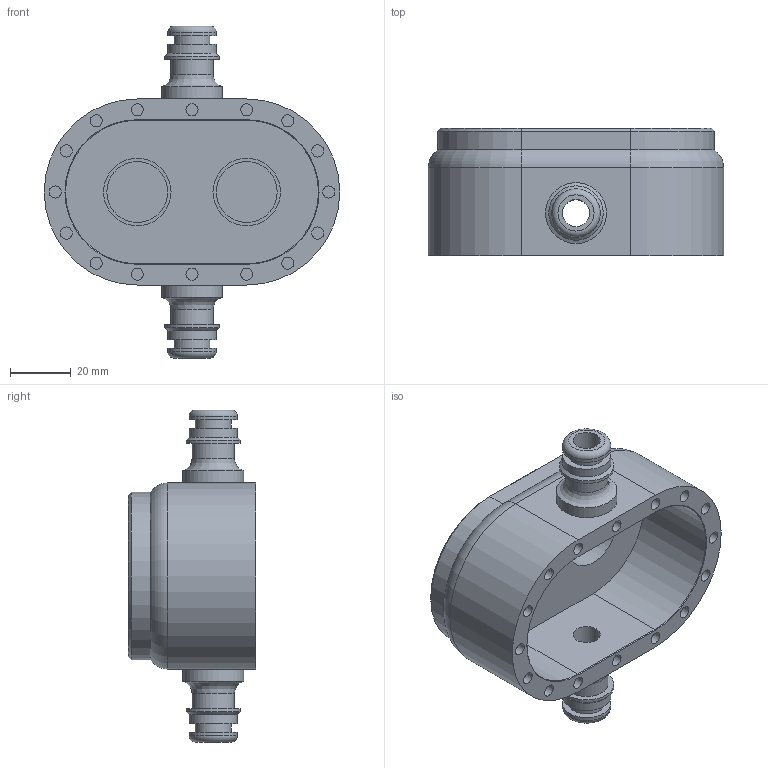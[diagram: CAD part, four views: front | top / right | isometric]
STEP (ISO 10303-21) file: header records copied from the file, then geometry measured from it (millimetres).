
FILE_DESCRIPTION(('FreeCAD Model'),'2;1');
FILE_NAME('Open CASCADE Shape Model','2022-10-12T14:18:58',(''),(''), 'Open CASCADE STEP processor 7.6','FreeCAD','Unknown');
FILE_SCHEMA(('AUTOMOTIVE_DESIGN { 1 0 10303 214 1 1 1 1 }'));
Length unit declared in the file: millimetre
Products named in the file (1): Chamfer003
Bounding box: 97.2 x 42 x 109.2 mm (x, y, z)
Volume: 103623.7 mm3; surface area: 34449.4 mm2
Topology: 1 solids, 1 shells, 100 faces, 176 edges, 109 vertices
Faces by surface type: cylinder 44, plane 43, cone 7, torus 4, revolution 2
Full cylindrical faces by diameter (mm): 4 x14, 9 x2, 11.8 x2, 14 x2, 15.9 x4, 17.9 x2, 20 x4, 22.2 x2
Entity records: 4859 total; most frequent: CARTESIAN_POINT 1042, DIRECTION 761, ORIENTED_EDGE 352, PCURVE 352, DEFINITIONAL_REPRESENTATION 352, LINE 325, VECTOR 325, AXIS2_PLACEMENT_3D 202
